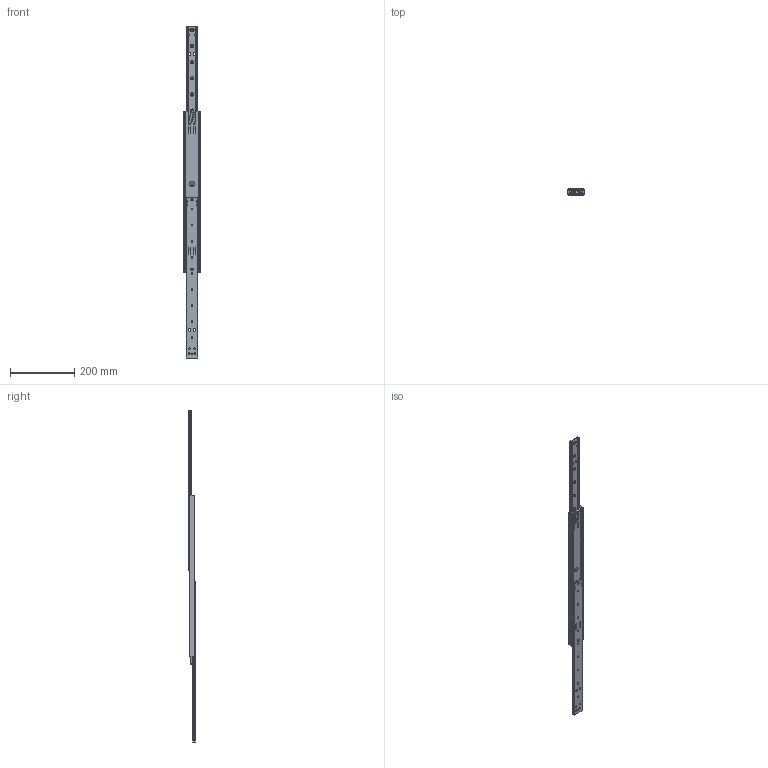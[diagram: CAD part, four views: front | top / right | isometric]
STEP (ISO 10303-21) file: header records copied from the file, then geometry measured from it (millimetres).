
FILE_DESCRIPTION (( 'STEP AP214' ), '1' );
FILE_NAME ('230-500-open.STEP', '2024-08-20T11:16:44', ( '' ), ( '' ), 'SwSTEP 2.0', 'SolidWorks 2024', '' );
FILE_SCHEMA (( 'AUTOMOTIVE_DESIGN' ));
Length unit declared in the file: millimetre
Products named in the file (12): 61_12275_9.STEP_Part263; 301_000_008_Fitted_23.STEP_Part262; 61_12280_10_Beam Assembled - Stop Raises _3.STEP_Part259; 230-500-open; 370_002_070_23.STEP_Part265; 61_12279_10_3.STEP_Part258; 61_12285_10_open.STEP_Assem47; 400_000_004_23.STEP_Part267; 61_12282_23.STEP_Part261; 61_12278_14_3.STEP_Part268; 61_13331_Pin Fitted_23.STEP_Part260; 61_12274_23.STEP_Part264
Assembly tree (27 placements, depth 3):
  230-500-open
    61_12285_10_open.STEP_Assem47
      61_12279_10_3.STEP_Part258
      61_12280_10_Beam Assembled - Stop Raises _3.STEP_Part259  x2
      61_13331_Pin Fitted_23.STEP_Part260  x4
      61_12282_23.STEP_Part261
      301_000_008_Fitted_23.STEP_Part262  x2
      61_12275_9.STEP_Part263
      61_12274_23.STEP_Part264
      370_002_070_23.STEP_Part265  x2
      400_000_004_23.STEP_Part267  x8
      61_12278_14_3.STEP_Part268  x4
Bounding box: 50.7 x 19.75 x 1030 mm (x, y, z)
Volume: 289222.1 mm3; surface area: 200288.9 mm2
Topology: 26 solids, 26 shells, 1384 faces, 3569 edges, 2231 vertices
Faces by surface type: cylinder 588, plane 297, sphere 289, cone 88, torus 77, bspline 45
Entity records: 29598 total; most frequent: CARTESIAN_POINT 8902, DIRECTION 4484, ORIENTED_EDGE 4190, EDGE_CURVE 2095, AXIS2_PLACEMENT_3D 1810, VERTEX_POINT 1298, CIRCLE 1002, EDGE_LOOP 947
